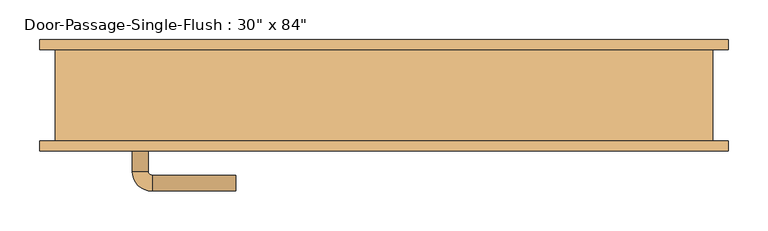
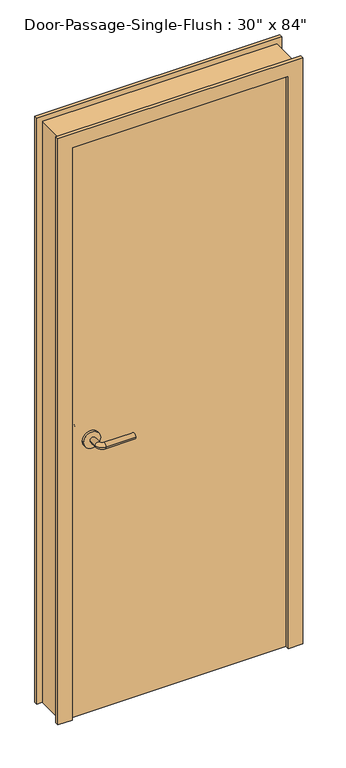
"""IFC4 building model written with IfcOpenShell, lengths in millimetres: door geometry."""

import ifcopenshell
import ifcopenshell.guid

model = None  # the IFC model being written
_history = None  # IfcOwnerHistory: only IFC2X3 demands one
_inside = {}  # id of a spatial element -> (the spatial element, [elements in it])
_under = {}  # id of a project, library or spatial element -> (it, [spatial elements below it])
_declared = {}  # id of a project -> (the project, [libraries it declares])
_typed = {}  # id of a type object -> (the type object, [elements of that type])
_made_of = {}  # id of a material, layer set ... -> (it, [elements and type objects made of it])


def new_model(schema):
    """Start an empty IFC model of exactly this schema.

    Asked for "IFC4X3", IfcOpenShell would pick the latest addendum, in which some entities
    have other attributes; the version numbers below select the first issue.
    IFC2X3 requires an IfcOwnerHistory on every rooted entity: one is made here for all.
    """
    global model, _history
    if schema == "IFC4X3":
        model = ifcopenshell.file(schema_version=(4, 3, 0, 0))
    else:
        model = ifcopenshell.file(schema=schema)
    _inside.clear()
    _under.clear()
    _declared.clear()
    _typed.clear()
    _made_of.clear()
    _history = None
    if model.schema == "IFC2X3":
        org = make("IfcOrganization", Name="unknown")
        user = make(
            "IfcPersonAndOrganization",
            ThePerson=make("IfcPerson", FamilyName="unknown"),
            TheOrganization=org,
        )
        app = make(
            "IfcApplication",
            ApplicationDeveloper=org,
            Version="unknown",
            ApplicationFullName="unknown",
            ApplicationIdentifier="unknown",
        )
        _history = make(
            "IfcOwnerHistory",
            OwningUser=user,
            OwningApplication=app,
            ChangeAction="ADDED",
            CreationDate=0,
        )
    return model


def make(cls, **values):
    """One entity of the class cls with the attributes given. An attribute that is None is left unset."""
    return model.create_entity(
        cls, **{name: value for name, value in values.items() if value is not None}
    )


def rooted(cls, **values):
    """An entity with a GlobalId (a new one), such as an element, a storey or a relation."""
    return make(cls, GlobalId=ifcopenshell.guid.new(), OwnerHistory=_history, **values)


def si_unit(unit_type, name, prefix=None):
    """IfcSIUnit, for example si_unit("LENGTHUNIT", "METRE", prefix="MILLI")."""
    return make("IfcSIUnit", UnitType=unit_type, Prefix=prefix, Name=name)


def assignment(units):
    """IfcUnitAssignment: the units of a project."""
    return None if units is None else make("IfcUnitAssignment", Units=units)


def point(xyz):
    """IfcCartesianPoint."""
    return None if xyz is None else make("IfcCartesianPoint", Coordinates=xyz)


def direction(xyz):
    """IfcDirection."""
    return None if xyz is None else make("IfcDirection", DirectionRatios=xyz)


def frame(location, z_axis=None, x_axis=None):
    """IfcAxis2Placement3D, a coordinate frame: its origin and axes. An axis left out is left unset."""
    return make(
        "IfcAxis2Placement3D",
        Location=point(location),
        Axis=direction(z_axis),
        RefDirection=direction(x_axis),
    )


def frame_2d(location, x_axis=None):
    """IfcAxis2Placement2D, a coordinate frame in the plane: its origin and x axis."""
    return make(
        "IfcAxis2Placement2D", Location=point(location), RefDirection=direction(x_axis)
    )


def origin():
    """The frame at (0, 0, 0) with its axes left unset."""
    return frame((0.0, 0.0, 0.0))


def origin_with_axes():
    """The frame at (0, 0, 0) with the z axis (0, 0, 1) and the x axis (1, 0, 0) written out."""
    return frame((0.0, 0.0, 0.0), z_axis=(0.0, 0.0, 1.0), x_axis=(1.0, 0.0, 0.0))


def place(relative_to, where):
    """IfcLocalPlacement: puts the frame where relative to a parent placement (None: the world)."""
    return make(
        "IfcLocalPlacement", PlacementRelTo=relative_to, RelativePlacement=where
    )


def context(
    kind, dimensions, precision=None, world=None, true_north=None, identifier=None
):
    """IfcGeometricRepresentationContext, for example the 3D "Model" context."""
    return make(
        "IfcGeometricRepresentationContext",
        ContextIdentifier=identifier,
        ContextType=kind,
        CoordinateSpaceDimension=dimensions,
        Precision=precision,
        WorldCoordinateSystem=world,
        TrueNorth=true_north,
    )


def project(units=None, contexts=None):
    """IfcProject with its units and contexts."""
    return rooted(
        "IfcProject",
        Name="project",
        RepresentationContexts=contexts,
        UnitsInContext=assignment(units),
    )


def spatial(cls, under=None, at=None, **own):
    """A site, building, storey or space (cls), placed at a placement, below another one or the project."""
    s = rooted(cls, ObjectPlacement=at, **own)
    if under is not None:
        _under.setdefault(under.id(), (under, []))[1].append(s)
    return s


def polyline(points):
    """IfcPolyline through the points."""
    return make("IfcPolyline", Points=[point(p) for p in points])


def circle_curve(where, radius):
    """IfcCircle in the frame where."""
    return make("IfcCircle", Position=where, Radius=radius)


def ellipse_curve(where, semi_axis1, semi_axis2):
    """IfcEllipse in the frame where."""
    return make(
        "IfcEllipse", Position=where, SemiAxis1=semi_axis1, SemiAxis2=semi_axis2
    )


def trimmed(basis, trim1, trim2, sense, master):
    """IfcTrimmedCurve: the piece of a basis curve between two trims."""
    return make(
        "IfcTrimmedCurve",
        BasisCurve=basis,
        Trim1=trim1,
        Trim2=trim2,
        SenseAgreement=sense,
        MasterRepresentation=master,
    )


def segment(curve, same_sense, transition):
    """IfcCompositeCurveSegment."""
    return make(
        "IfcCompositeCurveSegment",
        Transition=transition,
        SameSense=same_sense,
        ParentCurve=curve,
    )


def composite_curve(segments, self_intersect=None):
    """IfcCompositeCurve: segments joined end to end."""
    return make("IfcCompositeCurve", Segments=segments, SelfIntersect=self_intersect)


def outline(outer, holes=None, kind="AREA"):
    """IfcArbitraryClosedProfileDef: a profile drawn as a closed curve; with holes, ...WithVoids."""
    if holes is None:
        return make("IfcArbitraryClosedProfileDef", ProfileType=kind, OuterCurve=outer)
    return make(
        "IfcArbitraryProfileDefWithVoids",
        ProfileType=kind,
        OuterCurve=outer,
        InnerCurves=holes,
    )


def extrude(swept, where, along, depth):
    """IfcExtrudedAreaSolid: the profile swept, set in the frame where, extruded along a direction by depth."""
    return make(
        "IfcExtrudedAreaSolid",
        SweptArea=swept,
        Position=where,
        ExtrudedDirection=direction(along),
        Depth=depth,
    )


def faces_of(points, faces, orient=None, outer=None):
    """IfcFace entities. A face is a list of loops; a loop is a list of indices into points, from 0.

    orient and outer hold one flag for each loop. By default every Orientation is true, the
    first loop of a face is its IfcFaceOuterBound and the others are IfcFaceBound.
    """
    made = []
    for i, loops in enumerate(faces):
        bounds = []
        for j, loop in enumerate(loops):
            is_outer = j == 0 if outer is None else outer[i][j]
            bounds.append(
                make(
                    "IfcFaceOuterBound" if is_outer else "IfcFaceBound",
                    Bound=make("IfcPolyLoop", Polygon=[points[k] for k in loop]),
                    Orientation=True if orient is None else orient[i][j],
                )
            )
        made.append(make("IfcFace", Bounds=bounds))
    return made


def faceted_brep(points, faces, orient=None, outer=None, voids=None):
    """IfcFacetedBrep: a solid bounded by flat faces; with voids (closed shells), ...WithVoids."""
    shared = [point(p) for p in points]
    hull = make("IfcClosedShell", CfsFaces=faces_of(shared, faces, orient, outer))
    if voids is None:
        return make("IfcFacetedBrep", Outer=hull)
    return make(
        "IfcFacetedBrepWithVoids",
        Outer=hull,
        Voids=[
            make(cls, CfsFaces=faces_of(shared, fs, o, b)) for cls, fs, o, b in voids
        ],
    )


def shape(context_of_items, identifier, shape_type, items):
    """IfcShapeRepresentation: the items that make up one representation, for example the "Body"."""
    return make(
        "IfcShapeRepresentation",
        ContextOfItems=context_of_items,
        RepresentationIdentifier=identifier,
        RepresentationType=shape_type,
        Items=items,
    )


def source(mapping_origin, context_of_items, identifier, shape_type, items):
    """IfcRepresentationMap: a shape defined once, which mapped items show again and again."""
    return make(
        "IfcRepresentationMap",
        MappingOrigin=mapping_origin,
        MappedRepresentation=shape(context_of_items, identifier, shape_type, items),
    )


def transform(
    local_origin,
    x_axis=None,
    y_axis=None,
    z_axis=None,
    scale=None,
    scale2=None,
    scale3=None,
    uniform=True,
):
    """IfcCartesianTransformationOperator3D, or its non-uniform kind. x_axis, y_axis, z_axis: its Axis1, 2, 3."""
    if uniform:
        return make(
            "IfcCartesianTransformationOperator3D",
            Axis1=direction(x_axis),
            Axis2=direction(y_axis),
            LocalOrigin=point(local_origin),
            Scale=scale,
            Axis3=direction(z_axis),
        )
    return make(
        "IfcCartesianTransformationOperator3DnonUniform",
        Axis1=direction(x_axis),
        Axis2=direction(y_axis),
        LocalOrigin=point(local_origin),
        Scale=scale,
        Axis3=direction(z_axis),
        Scale2=scale2,
        Scale3=scale3,
    )


def mapped(mapping_source, mapping_target):
    """IfcMappedItem: shows the shape of a source again, moved by a transform."""
    return make(
        "IfcMappedItem", MappingSource=mapping_source, MappingTarget=mapping_target
    )


def made_of(thing, what):
    """Note that an element or type object is made of a material, layer set ...; save() writes the relation."""
    if what is not None:
        _made_of.setdefault(what.id(), (what, []))[1].append(thing)
    return thing


def element(
    cls,
    number,
    at=None,
    inside=None,
    cuts=None,
    type_object=None,
    material=None,
    context=None,
    identifier="Body",
    shape_type=None,
    held_by="IfcProductDefinitionShape",
    body=None,
    shapes=None,
    **own,
):
    """One element of the class cls, such as IfcWall. Its Tag is "e" and its number.

    at: its placement. inside: the storey or other place that contains it. cuts: it is an
    opening in that element (IfcRelVoidsElement). A single representation is given by context,
    identifier, shape_type and body (its items); several are given by shapes. held_by: the class
    of the entity that holds the representations. save() writes the other relations.
    """
    e = rooted(cls, Tag="e%d" % number, ObjectPlacement=at, **own)
    if body is not None:
        shapes = [shape(context, identifier, shape_type, body)]
    if shapes is not None:
        e.Representation = make(held_by, Representations=shapes)
    if inside is not None:
        _inside.setdefault(inside.id(), (inside, []))[1].append(e)
    if cuts is not None:
        rooted(
            "IfcRelVoidsElement", RelatingBuildingElement=cuts, RelatedOpeningElement=e
        )
    if type_object is not None:
        _typed.setdefault(type_object.id(), (type_object, []))[1].append(e)
    return made_of(e, material)


def aggregate(whole, parts):
    """IfcRelAggregates: a whole, such as a stair, and the parts it consists of."""
    return rooted("IfcRelAggregates", RelatingObject=whole, RelatedObjects=parts)


def save(model, path):
    """Write the relations noted so far, then the file.

    IfcRelAggregates (storeys below a building ...), IfcRelContainedInSpatialStructure (elements
    in a storey), IfcRelDefinesByType, IfcRelAssociatesMaterial and IfcRelDeclares: one each for
    every whole, place, type object, material and project.
    """
    for whole, parts in _under.values():
        aggregate(whole, parts)
    for where, things in _inside.values():
        rooted(
            "IfcRelContainedInSpatialStructure",
            RelatedElements=things,
            RelatingStructure=where,
        )
    for kind, things in _typed.values():
        rooted("IfcRelDefinesByType", RelatedObjects=things, RelatingType=kind)
    for what, things in _made_of.values():
        rooted("IfcRelAssociatesMaterial", RelatedObjects=things, RelatingMaterial=what)
    for by, libraries in _declared.values():
        rooted("IfcRelDeclares", RelatingContext=by, RelatedDefinitions=libraries)
    model.write(path)


def plane_surface(at):
    """IfcPlane: the flat surface through the origin of the frame at, square to its z axis."""
    return make("IfcPlane", Position=at)


def cylinder_surface(at, radius):
    """IfcCylindricalSurface: all points at the distance radius from the z axis of the frame at."""
    return make("IfcCylindricalSurface", Position=at, Radius=radius)


def revolved_surface(curve, axis_point, axis_direction):
    """IfcSurfaceOfRevolution: the curve turned about the line through axis_point along axis_direction."""
    return make(
        "IfcSurfaceOfRevolution",
        SweptCurve=make("IfcArbitraryOpenProfileDef", ProfileType="CURVE", Curve=curve),
        AxisPosition=make("IfcAxis1Placement", Location=point(axis_point), Axis=direction(axis_direction)),
    )


def advanced_brep(points, edges, surfaces, faces):
    """IfcAdvancedBrep: a solid bounded by faces that lie on surfaces and meet in shared edges.

    An edge is (start, end): straight between two places in points (the first is 0);
    or (start, end, curve); or (start, end, curve, False) where it runs against its curve.
    A face is (place in surfaces, loops), or (place, loops, False) where it looks against
    its surface's normal. A loop lists edges by number (the first is 1), with a minus sign
    where the edge is run from its end to its start. The first loop is the outer one.
    """
    corners = [point(p) for p in points]
    vertices = [make("IfcVertexPoint", VertexGeometry=c) for c in corners]
    made = []
    for start, end, *more in edges:
        made.append(
            make(
                "IfcEdgeCurve",
                EdgeStart=vertices[start],
                EdgeEnd=vertices[end],
                EdgeGeometry=more[0] if more else make("IfcPolyline", Points=[corners[start], corners[end]]),
                SameSense=more[1] if len(more) > 1 else True,
            )
        )
    hull = []
    for where, loops, *sense in faces:
        bounds = []
        for j, loop in enumerate(loops):
            ring = [make("IfcOrientedEdge", EdgeElement=made[abs(k) - 1], Orientation=k > 0) for k in loop]
            bounds.append(
                make(
                    "IfcFaceOuterBound" if j == 0 else "IfcFaceBound",
                    Bound=make("IfcEdgeLoop", EdgeList=ring),
                    Orientation=True,
                )
            )
        hull.append(make("IfcAdvancedFace", Bounds=bounds, FaceSurface=surfaces[where], SameSense=sense[0] if sense else True))
    return make("IfcAdvancedBrep", Outer=make("IfcClosedShell", CfsFaces=hull))


def door_89b66799(model_context):
    return source(origin(), model_context, "Body", "SolidModel", [
        advanced_brep(
        [(-315.990625, -11.05, 1016.0), (-295.990625, -11.05, 1016.0), (-315.990625, 18.95, 1016.0), (-295.990625, 18.95, 1016.0), (-290.990625, 23.95, 1016.0), (-290.990625, 43.95, 1016.0), (-185.990625, 43.95, 1016.0), (-185.990625, 23.95, 1016.0)],
        [
            (0, 1, circle_curve(frame((-305.990625, -11.05, 1016.0), z_axis=(0.0, -1.0, 0.0), x_axis=(1.0, 0.0, 0.0)), 10.0)),
            (1, 0, circle_curve(frame((-305.990625, -11.05, 1016.0), z_axis=(0.0, -1.0, 0.0), x_axis=(1.0, 0.0, 0.0)), 10.0)),
            (0, 2),
            (2, 3, circle_curve(frame((-305.990625, 18.95, 1016.0), z_axis=(0.0, -1.0, 0.0), x_axis=(1.0, 0.0, 0.0)), 10.0)),
            (3, 1),
            (3, 2, circle_curve(frame((-305.990625, 18.95, 1016.0), z_axis=(0.0, -1.0, 0.0), x_axis=(1.0, 0.0, 0.0)), 10.0)),
            (4, 3, circle_curve(frame((-290.990625, 18.95, 1016.0), z_axis=(0.0, 0.0, 1.0), x_axis=(-1.0, 0.0, 0.0)), 5.0)),
            (2, 5, circle_curve(frame((-290.990625, 18.95, 1016.0), z_axis=(0.0, 0.0, -1.0), x_axis=(-1.0, 0.0, 0.0)), 25.0)),
            (5, 4, circle_curve(frame((-290.990625, 33.95, 1016.0), z_axis=(-1.0, 0.0, 0.0), x_axis=(0.0, -1.0, 0.0)), 10.0)),
            (4, 5, circle_curve(frame((-290.990625, 33.95, 1016.0), z_axis=(-1.0, 0.0, 0.0), x_axis=(0.0, -1.0, 0.0)), 10.0)),
            (6, 7, circle_curve(frame((-185.990625, 33.95, 1016.0), z_axis=(1.0, 0.0, 0.0), x_axis=(0.0, -1.0, 0.0)), 10.0)),
            (7, 6, circle_curve(frame((-185.990625, 33.95, 1016.0), z_axis=(1.0, 0.0, 0.0), x_axis=(0.0, -1.0, 0.0)), 10.0)),
            (5, 6),
            (7, 4),
        ],
        [
            plane_surface(frame((-305.990625, -11.05, 1016.0), z_axis=(0.0, -1.0, 0.0), x_axis=(0.0, 0.0, 1.0))),
            cylinder_surface(frame((-305.990625, -11.05, 1016.0), z_axis=(0.0, -1.0, 0.0), x_axis=(1.0, 0.0, 0.0)), 10.0),
            revolved_surface(trimmed(ellipse_curve(frame((-305.990625, 18.95, 1016.0), z_axis=(0.0, -1.0, 0.0), x_axis=(1.0, 0.0, 0.0)), 10.0, 10.0), [point((-315.990625, 18.95, 1016.0))], [point((-295.990625, 18.95, 1016.0))], True, "CARTESIAN"), (-290.990625, 18.95, 1016.0), (0.0, 0.0, -1.0)),
            revolved_surface(trimmed(ellipse_curve(frame((-305.990625, 18.95, 1016.0), z_axis=(0.0, -1.0, 0.0), x_axis=(1.0, 0.0, 0.0)), 10.0, 10.0), [point((-295.990625, 18.95, 1016.0))], [point((-315.990625, 18.95, 1016.0))], True, "CARTESIAN"), (-290.990625, 18.95, 1016.0), (0.0, 0.0, -1.0)),
            plane_surface(frame((-185.990625, 33.95, 1016.0), z_axis=(1.0, 0.0, 0.0), x_axis=(0.0, 0.0, 1.0))),
            cylinder_surface(frame((-290.990625, 33.95, 1016.0), z_axis=(-1.0, 0.0, 0.0), x_axis=(0.0, -1.0, 0.0)), 10.0),
        ],
        [
            (0, [[1, 2]]),
            (1, [[-1, 3, 4, 5]]),
            (1, [[-2, -5, 6, -3]]),
            (2, [[7, -4, 8, 9]]),
            (3, [[-8, -6, -7, 10]]),
            (4, [[11, 12]]),
            (5, [[-9, 13, -12, 14]]),
            (5, [[-10, -14, -11, -13]]),
        ],
    ),
        extrude(outline(composite_curve([segment(trimmed(circle_curve(frame_2d((1016.0, -308.490625)), 30.0), [point((1016.0, -338.490625))], [point((1016.0, -278.490625))], False, "CARTESIAN"), True, "CONTINUOUS"), segment(trimmed(circle_curve(frame_2d((1016.0, -308.490625)), 30.0), [point((1016.0, -278.490625))], [point((1016.0, -338.490625))], False, "CARTESIAN"), True, "CONTINUOUS")], self_intersect=False)), frame((0.0, -19.05, 0.0), z_axis=(0.0, 1.0, 0.0), x_axis=(0.0, 0.0, 1.0)), (0.0, 0.0, 1.0), 8.0),
        advanced_brep(
        [(-315.990625, -71.5, 1016.0), (-295.990625, -71.5, 1016.0), (-295.990625, -101.5, 1016.0), (-315.990625, -101.5, 1016.0), (-290.990625, -106.5, 1016.0), (-290.990625, -126.5, 1016.0), (-185.990625, -126.5, 1016.0), (-185.990625, -106.5, 1016.0)],
        [
            (0, 1, circle_curve(frame((-305.990625, -71.5, 1016.0), z_axis=(0.0, 1.0, 0.0), x_axis=(1.0, 0.0, 0.0)), 10.0)),
            (1, 0, circle_curve(frame((-305.990625, -71.5, 1016.0), z_axis=(0.0, 1.0, 0.0), x_axis=(1.0, 0.0, 0.0)), 10.0)),
            (1, 2),
            (2, 3, circle_curve(frame((-305.990625, -101.5, 1016.0), z_axis=(0.0, 1.0, 0.0), x_axis=(1.0, 0.0, 0.0)), 10.0)),
            (3, 0),
            (3, 2, circle_curve(frame((-305.990625, -101.5, 1016.0), z_axis=(0.0, 1.0, 0.0), x_axis=(1.0, 0.0, 0.0)), 10.0)),
            (4, 5, circle_curve(frame((-290.990625, -116.5, 1016.0), z_axis=(-1.0, 0.0, 0.0), x_axis=(0.0, 1.0, 0.0)), 10.0)),
            (5, 3, circle_curve(frame((-290.990625, -101.5, 1016.0), z_axis=(0.0, 0.0, -1.0), x_axis=(-1.0, 0.0, 0.0)), 25.0)),
            (2, 4, circle_curve(frame((-290.990625, -101.5, 1016.0), z_axis=(0.0, 0.0, 1.0), x_axis=(-1.0, 0.0, 0.0)), 5.0)),
            (5, 4, circle_curve(frame((-290.990625, -116.5, 1016.0), z_axis=(-1.0, 0.0, 0.0), x_axis=(0.0, 1.0, 0.0)), 10.0)),
            (6, 7, circle_curve(frame((-185.990625, -116.5, 1016.0), z_axis=(1.0, 0.0, 0.0), x_axis=(0.0, 1.0, 0.0)), 10.0)),
            (7, 6, circle_curve(frame((-185.990625, -116.5, 1016.0), z_axis=(1.0, 0.0, 0.0), x_axis=(0.0, 1.0, 0.0)), 10.0)),
            (4, 7),
            (6, 5),
        ],
        [
            plane_surface(frame((-305.990625, -71.5, 1016.0), z_axis=(0.0, 1.0, 0.0), x_axis=(0.0, 0.0, 1.0))),
            cylinder_surface(frame((-305.990625, -71.5, 1016.0), z_axis=(0.0, 1.0, 0.0), x_axis=(1.0, 0.0, 0.0)), 10.0),
            revolved_surface(trimmed(ellipse_curve(frame((-305.990625, -101.5, 1016.0), z_axis=(0.0, -1.0, 0.0), x_axis=(1.0, 0.0, 0.0)), 10.0, 10.0), [point((-315.990625, -101.5, 1016.0))], [point((-295.990625, -101.5, 1016.0))], True, "CARTESIAN"), (-290.990625, -101.5, 1016.0), (0.0, 0.0, -1.0)),
            revolved_surface(trimmed(ellipse_curve(frame((-305.990625, -101.5, 1016.0), z_axis=(0.0, -1.0, 0.0), x_axis=(1.0, 0.0, 0.0)), 10.0, 10.0), [point((-295.990625, -101.5, 1016.0))], [point((-315.990625, -101.5, 1016.0))], True, "CARTESIAN"), (-290.990625, -101.5, 1016.0), (0.0, 0.0, -1.0)),
            plane_surface(frame((-185.990625, -116.5, 1016.0), z_axis=(1.0, 0.0, 0.0), x_axis=(0.0, 0.0, 1.0))),
            cylinder_surface(frame((-290.990625, -116.5, 1016.0), z_axis=(-1.0, 0.0, 0.0), x_axis=(0.0, 1.0, 0.0)), 10.0),
        ],
        [
            (0, [[1, 2]]),
            (1, [[3, 4, 5, -2]]),
            (1, [[-5, 6, -3, -1]]),
            (2, [[7, 8, -4, 9]]),
            (3, [[10, -9, -6, -8]]),
            (4, [[11, 12]]),
            (5, [[13, -11, 14, -7]]),
            (5, [[-14, -12, -13, -10]]),
        ],
    ),
        extrude(outline(composite_curve([segment(trimmed(circle_curve(frame_2d((1016.0, -308.490625)), 30.0), [point((1016.0, -338.490625))], [point((1016.0, -278.490625))], False, "CARTESIAN"), True, "CONTINUOUS"), segment(trimmed(circle_curve(frame_2d((1016.0, -308.490625)), 30.0), [point((1016.0, -278.490625))], [point((1016.0, -338.490625))], False, "CARTESIAN"), True, "CONTINUOUS")], self_intersect=False)), frame((0.0, -71.5, 0.0), z_axis=(0.0, 1.0, 0.0), x_axis=(0.0, 0.0, 1.0)), (0.0, 0.0, 1.0), 8.0),
        faceted_brep([(381.0, -76.2, 0.0), (381.0, -14.2875, 0.0), (365.125, -14.2875, 0.0), (365.125, 23.8125, 0.0), (381.0, 23.8125, 0.0), (381.0, 63.5, 0.0), (431.8, 63.5, 0.0), (431.8, 50.8, 0.0), (412.75, 50.8, 0.0), (412.75, -63.5, 0.0), (431.8, -63.5, 0.0), (431.8, -76.2, 0.0), (431.8, -76.2, 2184.4), (-431.8, -76.2, 2184.4), (-431.8, -76.2, 0.0), (-381.0, -76.2, 0.0), (-381.0, -76.2, 2133.6), (381.0, -76.2, 2133.6), (431.8, -63.5, 2184.4), (412.75, -63.5, 2165.35), (-412.75, -63.5, 2165.35), (-412.75, -63.5, 0.0), (-431.8, -63.5, 0.0), (-431.8, -63.5, 2184.4), (412.75, 50.8, 2165.35), (431.8, 50.8, 2184.4), (-431.8, 50.8, 2184.4), (-431.8, 50.8, 0.0), (-412.75, 50.8, 0.0), (-412.75, 50.8, 2165.35), (431.8, 63.5, 2184.4), (381.0, 63.5, 2133.6), (-381.0, 63.5, 2133.6), (-381.0, 63.5, 0.0), (-431.8, 63.5, 0.0), (-431.8, 63.5, 2184.4), (381.0, 23.8125, 2133.6), (365.125, 23.8125, 2117.725), (-365.125, 23.8125, 2117.725), (-365.125, 23.8125, 0.0), (-381.0, 23.8125, 0.0), (-381.0, 23.8125, 2133.6), (365.125, -14.2875, 2117.725), (381.0, -14.2875, 2133.6), (-381.0, -14.2875, 2133.6), (-381.0, -14.2875, 0.0), (-365.125, -14.2875, 0.0), (-365.125, -14.2875, 2117.725)], [[[0, 1, 2, 3, 4, 5, 6, 7, 8, 9, 10, 11]], [[11, 12, 13, 14, 15, 16, 17, 0]], [[10, 18, 12, 11]], [[9, 19, 20, 21, 22, 23, 18, 10]], [[8, 24, 19, 9]], [[7, 25, 26, 27, 28, 29, 24, 8]], [[6, 30, 25, 7]], [[5, 31, 32, 33, 34, 35, 30, 6]], [[4, 36, 31, 5]], [[3, 37, 38, 39, 40, 41, 36, 4]], [[2, 42, 37, 3]], [[1, 43, 44, 45, 46, 47, 42, 2]], [[0, 17, 43, 1]], [[18, 23, 13, 12]], [[24, 29, 20, 19]], [[30, 35, 26, 25]], [[36, 41, 32, 31]], [[42, 47, 38, 37]], [[17, 16, 44, 43]], [[15, 14, 22, 21, 28, 27, 34, 33, 40, 39, 46, 45]], [[23, 22, 14, 13]], [[29, 28, 21, 20]], [[35, 34, 27, 26]], [[41, 40, 33, 32]], [[47, 46, 39, 38]], [[16, 15, 45, 44]]]),
        extrude(outline(polyline([(381.0, -19.05), (381.0, -63.5), (-381.0, -63.5), (-381.0, -19.05), (381.0, -19.05)])), origin_with_axes(), (0.0, 0.0, 1.0), 2133.6),
    ])


if __name__ == "__main__":
    model = new_model("IFC4")
    model_context = context("Model", 3, world=origin())
    ifc_project = project(units=[si_unit("LENGTHUNIT", "METRE", prefix="MILLI")], contexts=[model_context])
    site = spatial("IfcSite", under=ifc_project)
    building = spatial("IfcBuilding", under=site)
    placement = place(None, origin())
    door_shape = door_89b66799(model_context)
    element("IfcDoor", 1, ObjectType="Door-Passage-Single-Flush : 30\" x 84\"", at=placement, inside=building, context=model_context, shape_type="MappedRepresentation", body=[
        mapped(door_shape, transform((0.0, 0.0, 0.0), x_axis=(1.0, 0.0, 0.0), y_axis=(0.0, 1.0, 0.0), z_axis=(0.0, 0.0, 1.0))),
    ])
    save(model, "model.ifc")
